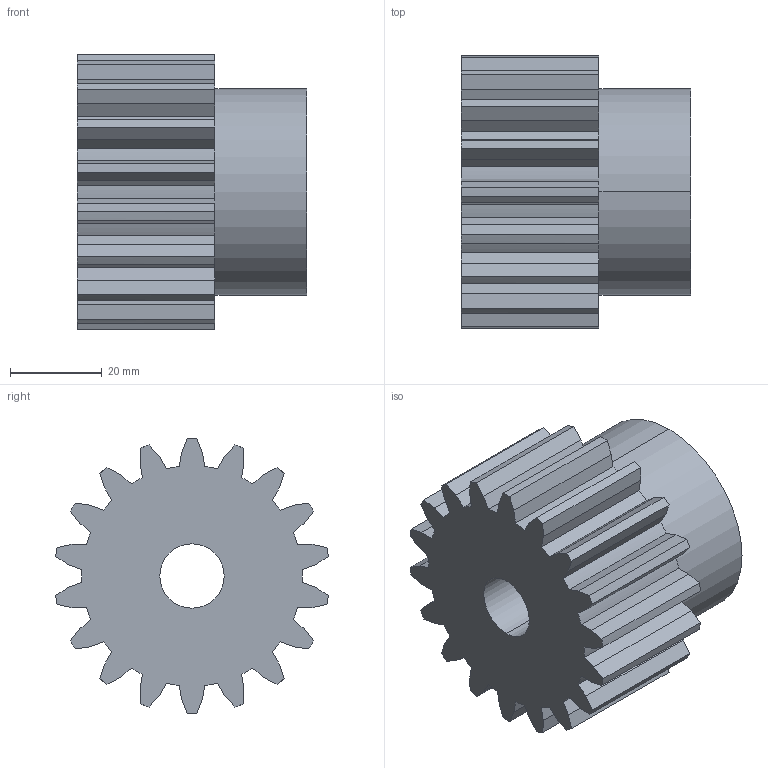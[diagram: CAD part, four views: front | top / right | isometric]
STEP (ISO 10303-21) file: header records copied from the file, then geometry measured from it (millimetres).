
FILE_DESCRIPTION (( 'STEP AP203' ), '1' );
FILE_NAME ('PM 30018.STEP', '2013-09-25T13:42:21', ( '' ), ( '' ), 'SwSTEP 2.0', 'SolidWorks 2010', '' );
FILE_SCHEMA (( 'CONFIG_CONTROL_DESIGN' ));
Length unit declared in the file: millimetre
Products named in the file (1): PM 30018
Bounding box: 50 x 59.4 x 60 mm (x, y, z)
Volume: 91814.1 mm3; surface area: 18770.5 mm2
Topology: 1 solids, 1 shells, 115 faces, 336 edges, 224 vertices
Faces by surface type: plane 75, cylinder 40
Entity records: 3959 total; most frequent: CARTESIAN_POINT 928, ORIENTED_EDGE 672, DIRECTION 548, EDGE_CURVE 336, VERTEX_POINT 224, VECTOR 188, LINE 188, AXIS2_PLACEMENT_3D 180
